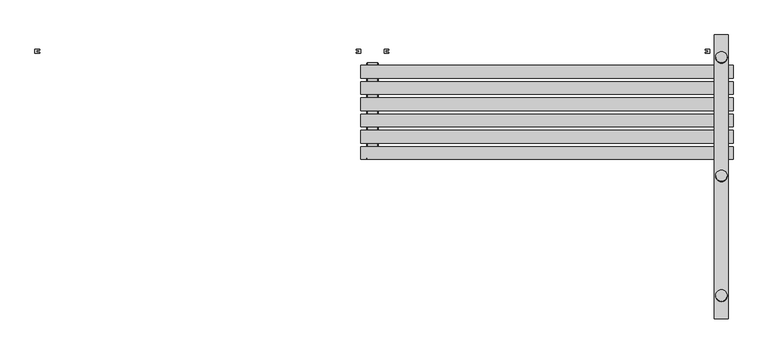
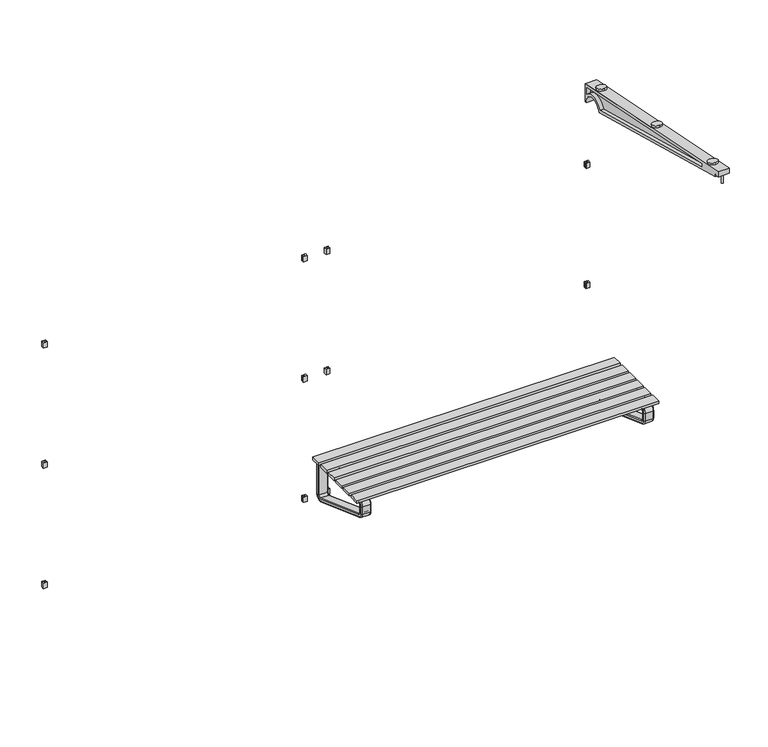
"""IFC4 building model written with IfcOpenShell, lengths in millimetres: geographic element geometry, Abri voyageur : Abri voyageur."""

from ifc_helpers import new_model, si_unit, point, frame, frame_2d, origin, place, context, project, spatial, polyline, circle_curve, ellipse_curve, trimmed, segment, composite_curve, outline, extrude, source, transform, mapped, element, save
from ifc_brep_helpers import plane_surface, cylinder_surface, revolved_surface, advanced_brep


def geographic_element_f93784e4(model_context):
    return source(origin(), model_context, "Body", "SolidModel", [
        extrude(outline(polyline([(1550.0, 490.0), (1550.0, 435.0), (-50.0, 435.0), (-50.0, 490.0), (1550.0, 490.0)])), frame((0.0, 0.0, 500.0), z_axis=(0.0, 0.0, 1.0), x_axis=(1.0, 0.0, 0.0)), (0.0, 0.0, 1.0), 15.0),
        extrude(outline(polyline([(1550.0, 420.0), (1550.0, 365.0), (-50.0, 365.0), (-50.0, 420.0), (1550.0, 420.0)])), frame((0.0, 0.0, 500.0), z_axis=(0.0, 0.0, 1.0), x_axis=(1.0, 0.0, 0.0)), (0.0, 0.0, 1.0), 15.0),
        extrude(outline(polyline([(1550.0, 350.0), (1550.0, 295.0), (-50.0, 295.0), (-50.0, 350.0), (1550.0, 350.0)])), frame((0.0, 0.0, 500.0), z_axis=(0.0, 0.0, 1.0), x_axis=(1.0, 0.0, 0.0)), (0.0, 0.0, 1.0), 15.0),
        extrude(outline(polyline([(1550.0, 280.0), (1550.0, 225.0), (-50.0, 225.0), (-50.0, 280.0), (1550.0, 280.0)])), frame((0.0, 0.0, 500.0), z_axis=(0.0, 0.0, 1.0), x_axis=(1.0, 0.0, 0.0)), (0.0, 0.0, 1.0), 15.0),
        extrude(outline(polyline([(1550.0, 210.0), (1550.0, 155.0), (-50.0, 155.0), (-50.0, 210.0), (1550.0, 210.0)])), frame((0.0, 0.0, 500.0), z_axis=(0.0, 0.0, 1.0), x_axis=(1.0, 0.0, 0.0)), (0.0, 0.0, 1.0), 15.0),
        extrude(outline(polyline([(1550.0, 140.0), (1550.0, 85.0), (-50.0, 85.0), (-50.0, 140.0), (1550.0, 140.0)])), frame((0.0, 0.0, 500.0), z_axis=(0.0, 0.0, 1.0), x_axis=(1.0, 0.0, 0.0)), (0.0, 0.0, 1.0), 15.0),
        advanced_brep(
        [(-21.0, 105.0, 470.0), (-21.0, 115.0, 480.0), (21.0, 115.0, 480.0), (21.0, 105.0, 470.0), (-25.0, 101.0, 470.0), (-25.0, 115.0, 484.0), (-21.0, 85.0, 470.0), (-21.0, 115.0, 500.0), (-25.0, 115.0, 496.0), (-25.0, 89.0, 470.0), (21.0, 85.0, 470.0), (21.0, 115.0, 500.0), (25.0, 89.0, 470.0), (25.0, 115.0, 496.0), (25.0, 115.0, 484.0), (25.0, 101.0, 470.0), (21.0, 105.0, 428.2489051), (-21.0, 105.0, 428.2489051), (-25.0, 101.0, 428.2489051), (-25.0, 89.0, 428.2489051), (-21.0, 85.0, 428.2489051), (21.0, 85.0, 428.2489051), (25.0, 89.0, 428.2489051), (25.0, 101.0, 428.2489051), (-21.0, 111.5797986, 418.8519789), (21.0, 111.5797986, 418.8519789), (-25.0, 110.211718, 415.0932084), (-21.0, 104.7393957, 400.0581264), (-25.0, 106.1074763, 403.8168969), (21.0, 104.7393957, 400.0581264), (25.0, 106.1074763, 403.8168969), (25.0, 110.211718, 415.0932084), (21.0, 466.5797986, 289.6425457), (-21.0, 466.5797986, 289.6425457), (-25.0, 465.211718, 285.8837752), (-25.0, 461.1074763, 274.6074638), (-21.0, 459.7393957, 270.8486933), (21.0, 459.7393957, 270.8486933), (25.0, 461.1074763, 274.6074638), (25.0, 465.211718, 285.8837752), (-21.0, 480.0, 299.0394719), (21.0, 480.0, 299.0394719), (-25.0, 484.0, 299.0394719), (-21.0, 500.0, 299.0394719), (-25.0, 496.0, 299.0394719), (21.0, 500.0, 299.0394719), (25.0, 496.0, 299.0394719), (25.0, 484.0, 299.0394719), (21.0, 480.0, 480.0), (-21.0, 480.0, 480.0), (-25.0, 484.0, 484.0), (-25.0, 496.0, 496.0), (-21.0, 500.0, 500.0), (21.0, 500.0, 500.0), (25.0, 496.0, 496.0), (25.0, 484.0, 484.0)],
        [
            (0, 1, circle_curve(frame((-21.0, 115.0, 470.0), z_axis=(-1.0, 0.0, 0.0), x_axis=(0.0, 0.0, 1.0)), 10.0)),
            (1, 2),
            (2, 3, circle_curve(frame((21.0, 115.0, 470.0), z_axis=(1.0, 0.0, 0.0), x_axis=(0.0, 0.0, 1.0)), 10.0)),
            (3, 0),
            (4, 5, circle_curve(frame((-25.0, 115.0, 470.0), z_axis=(-1.0, 0.0, 0.0), x_axis=(0.0, 0.0, 1.0)), 14.0)),
            (5, 1, circle_curve(frame((-21.0, 115.0, 484.0), z_axis=(0.0, -1.0, 0.0), x_axis=(0.0, 0.0, -1.0)), 4.0)),
            (0, 4, circle_curve(frame((-21.0, 101.0, 470.0), z_axis=(0.0, 0.0, 1.0), x_axis=(0.0, 1.0, 0.0)), 4.0)),
            (6, 7, circle_curve(frame((-21.0, 115.0, 470.0), z_axis=(-1.0, 0.0, 0.0), x_axis=(0.0, 0.0, 1.0)), 30.0)),
            (7, 8, circle_curve(frame((-21.0, 115.0, 496.0), z_axis=(0.0, -1.0, 0.0), x_axis=(0.0, 0.0, -1.0)), 4.0)),
            (8, 9, circle_curve(frame((-25.0, 115.0, 470.0), z_axis=(1.0, 0.0, 0.0), x_axis=(0.0, 0.0, 1.0)), 26.0)),
            (9, 6, circle_curve(frame((-21.0, 89.0, 470.0), z_axis=(0.0, 0.0, 1.0), x_axis=(0.0, 1.0, 0.0)), 4.0)),
            (10, 11, circle_curve(frame((21.0, 115.0, 470.0), z_axis=(-1.0, 0.0, 0.0), x_axis=(0.0, 0.0, 1.0)), 30.0)),
            (11, 7),
            (6, 10),
            (12, 13, circle_curve(frame((25.0, 115.0, 470.0), z_axis=(-1.0, 0.0, 0.0), x_axis=(0.0, 0.0, 1.0)), 26.0)),
            (13, 11, circle_curve(frame((21.0, 115.0, 496.0), z_axis=(0.0, -1.0, 0.0), x_axis=(0.0, 0.0, -1.0)), 4.0)),
            (10, 12, circle_curve(frame((21.0, 89.0, 470.0), z_axis=(0.0, 0.0, 1.0), x_axis=(0.0, 1.0, 0.0)), 4.0)),
            (2, 14, circle_curve(frame((21.0, 115.0, 484.0), z_axis=(0.0, -1.0, 0.0), x_axis=(0.0, 0.0, -1.0)), 4.0)),
            (14, 15, circle_curve(frame((25.0, 115.0, 470.0), z_axis=(1.0, 0.0, 0.0), x_axis=(0.0, 0.0, 1.0)), 14.0)),
            (15, 3, circle_curve(frame((21.0, 101.0, 470.0), z_axis=(0.0, 0.0, 1.0), x_axis=(0.0, 1.0, 0.0)), 4.0)),
            (3, 16),
            (16, 17),
            (17, 0),
            (17, 18, circle_curve(frame((-21.0, 101.0, 428.2489051), z_axis=(0.0, 0.0, 1.0), x_axis=(0.0, 1.0, 0.0)), 4.0)),
            (18, 4),
            (9, 19),
            (19, 20, circle_curve(frame((-21.0, 89.0, 428.2489051), z_axis=(0.0, 0.0, 1.0), x_axis=(0.0, 1.0, 0.0)), 4.0)),
            (20, 6),
            (20, 21),
            (21, 10),
            (21, 22, circle_curve(frame((21.0, 89.0, 428.2489051), z_axis=(0.0, 0.0, 1.0), x_axis=(0.0, 1.0, 0.0)), 4.0)),
            (22, 12),
            (15, 23),
            (23, 16, circle_curve(frame((21.0, 101.0, 428.2489051), z_axis=(0.0, 0.0, 1.0), x_axis=(0.0, 1.0, 0.0)), 4.0)),
            (24, 17, circle_curve(frame((-21.0, 115.0, 428.2489051), z_axis=(-1.0, 0.0, 0.0), x_axis=(0.0, -1.0, 0.0)), 10.0)),
            (16, 25, circle_curve(frame((21.0, 115.0, 428.2489051), z_axis=(1.0, 0.0, 0.0), x_axis=(0.0, -1.0, 0.0)), 10.0)),
            (25, 24),
            (26, 18, circle_curve(frame((-25.0, 115.0, 428.2489051), z_axis=(-1.0, 0.0, 0.0), x_axis=(0.0, -1.0, 0.0)), 14.0)),
            (24, 26, circle_curve(frame((-21.0, 110.211718, 415.0932084), z_axis=(0.0, -0.9396926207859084, 0.3420201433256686), x_axis=(0.0, 0.3420201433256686, 0.9396926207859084)), 4.0)),
            (27, 20, circle_curve(frame((-21.0, 115.0, 428.2489051), z_axis=(-1.0, 0.0, 0.0), x_axis=(0.0, -1.0, 0.0)), 30.0)),
            (19, 28, circle_curve(frame((-25.0, 115.0, 428.2489051), z_axis=(1.0, 0.0, 0.0), x_axis=(0.0, -1.0, 0.0)), 26.0)),
            (28, 27, circle_curve(frame((-21.0, 106.1074763, 403.8168969), z_axis=(0.0, -0.9396926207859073, 0.34202014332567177), x_axis=(0.0, 0.34202014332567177, 0.9396926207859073)), 4.0)),
            (29, 21, circle_curve(frame((21.0, 115.0, 428.2489051), z_axis=(-1.0, 0.0, 0.0), x_axis=(0.0, -1.0, 0.0)), 30.0)),
            (27, 29),
            (30, 22, circle_curve(frame((25.0, 115.0, 428.2489051), z_axis=(-1.0, 0.0, 0.0), x_axis=(0.0, -1.0, 0.0)), 26.0)),
            (29, 30, circle_curve(frame((21.0, 106.1074763, 403.8168969), z_axis=(0.0, -0.9396926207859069, 0.342020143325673), x_axis=(0.0, 0.342020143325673, 0.9396926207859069)), 4.0)),
            (23, 31, circle_curve(frame((25.0, 115.0, 428.2489051), z_axis=(1.0, 0.0, 0.0), x_axis=(0.0, -1.0, 0.0)), 14.0)),
            (31, 25, circle_curve(frame((21.0, 110.211718, 415.0932084), z_axis=(0.0, -0.939692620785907, 0.3420201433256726), x_axis=(0.0, 0.3420201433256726, 0.939692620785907)), 4.0)),
            (25, 32),
            (32, 33),
            (33, 24),
            (33, 34, circle_curve(frame((-21.0, 465.211718, 285.8837752), z_axis=(0.0, -0.9396926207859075, 0.3420201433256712), x_axis=(0.0, 0.3420201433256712, 0.9396926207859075)), 4.0)),
            (34, 26),
            (28, 35),
            (35, 36, circle_curve(frame((-21.0, 461.1074763, 274.6074638), z_axis=(0.0, -0.9396926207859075, 0.3420201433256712), x_axis=(0.0, 0.3420201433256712, 0.9396926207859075)), 4.0)),
            (36, 27),
            (36, 37),
            (37, 29),
            (37, 38, circle_curve(frame((21.0, 461.1074763, 274.6074638), z_axis=(0.0, -0.9396926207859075, 0.3420201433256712), x_axis=(0.0, 0.3420201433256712, 0.9396926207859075)), 4.0)),
            (38, 30),
            (31, 39),
            (39, 32, circle_curve(frame((21.0, 465.211718, 285.8837752), z_axis=(0.0, -0.9396926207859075, 0.3420201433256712), x_axis=(0.0, 0.3420201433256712, 0.9396926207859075)), 4.0)),
            (40, 33, circle_curve(frame((-21.0, 470.0, 299.0394719), z_axis=(-1.0, 0.0, 0.0), x_axis=(0.0, -0.34202014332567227, -0.9396926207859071)), 10.0)),
            (32, 41, circle_curve(frame((21.0, 470.0, 299.0394719), z_axis=(1.0, 0.0, 0.0), x_axis=(0.0, -0.34202014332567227, -0.9396926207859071)), 10.0)),
            (41, 40),
            (42, 34, circle_curve(frame((-25.0, 470.0, 299.0394719), z_axis=(-1.0, 0.0, 0.0), x_axis=(0.0, -0.34202014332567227, -0.9396926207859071)), 14.0)),
            (40, 42, circle_curve(frame((-21.0, 484.0, 299.0394719), z_axis=(0.0, 0.0, -1.0), x_axis=(0.0, -1.0, 0.0)), 4.0)),
            (43, 36, circle_curve(frame((-21.0, 470.0, 299.0394719), z_axis=(-1.0, 0.0, 0.0), x_axis=(0.0, -0.34202014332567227, -0.9396926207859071)), 30.0)),
            (35, 44, circle_curve(frame((-25.0, 470.0, 299.0394719), z_axis=(1.0, 0.0, 0.0), x_axis=(0.0, -0.34202014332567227, -0.9396926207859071)), 26.0)),
            (44, 43, circle_curve(frame((-21.0, 496.0, 299.0394719), z_axis=(0.0, 0.0, -1.0), x_axis=(0.0, -1.0, 0.0)), 4.0)),
            (45, 37, circle_curve(frame((21.0, 470.0, 299.0394719), z_axis=(-1.0, 0.0, 0.0), x_axis=(0.0, -0.34202014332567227, -0.9396926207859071)), 30.0)),
            (43, 45),
            (46, 38, circle_curve(frame((25.0, 470.0, 299.0394719), z_axis=(-1.0, 0.0, 0.0), x_axis=(0.0, -0.34202014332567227, -0.9396926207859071)), 26.0)),
            (45, 46, circle_curve(frame((21.0, 496.0, 299.0394719), z_axis=(0.0, 0.0, -1.0), x_axis=(0.0, -1.0, 0.0)), 4.0)),
            (39, 47, circle_curve(frame((25.0, 470.0, 299.0394719), z_axis=(1.0, 0.0, 0.0), x_axis=(0.0, -0.34202014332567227, -0.9396926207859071)), 14.0)),
            (47, 41, circle_curve(frame((21.0, 484.0, 299.0394719), z_axis=(0.0, 0.0, -0.9999999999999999), x_axis=(0.0, -0.9999999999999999, 0.0)), 4.0)),
            (41, 48),
            (48, 49),
            (49, 40),
            (49, 50, ellipse_curve(frame((-21.0, 484.0, 484.0), z_axis=(0.0, 0.7071067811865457, -0.7071067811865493), x_axis=(0.0, -0.7071067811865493, -0.7071067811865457)), 5.6568542, 4.0)),
            (50, 42),
            (44, 51),
            (51, 52, ellipse_curve(frame((-21.0, 496.0, 496.0), z_axis=(0.0, 0.7071067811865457, -0.7071067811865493), x_axis=(0.0, -0.7071067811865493, -0.7071067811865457)), 5.6568542, 4.0)),
            (52, 43),
            (52, 53),
            (53, 45),
            (53, 54, ellipse_curve(frame((21.0, 496.0, 496.0), z_axis=(0.0, 0.7071067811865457, -0.7071067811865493), x_axis=(0.0, -0.7071067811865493, -0.7071067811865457)), 5.6568542, 4.0)),
            (54, 46),
            (47, 55),
            (55, 48, ellipse_curve(frame((21.0, 484.0, 484.0), z_axis=(0.0, 0.7071067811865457, -0.7071067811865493), x_axis=(0.0, -0.7071067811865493, -0.7071067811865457)), 5.6568542, 4.0)),
            (48, 2),
            (1, 49),
            (5, 50),
            (8, 51),
            (7, 52),
            (11, 53),
            (13, 54),
            (14, 55),
        ],
        [
            revolved_surface(polyline([(21.0, 115.0, 480.0), (-21.0, 115.0, 480.0)]), (0.0, 115.0, 470.0), (1.0, 0.0, 0.0)),
            revolved_surface(trimmed(ellipse_curve(frame((-21.0, 115.0, 484.0), z_axis=(0.0, 1.0, 0.0), x_axis=(0.0, 0.0, -1.0)), 4.0, 4.0), [point((-21.0, 115.0, 480.0))], [point((-25.0, 115.0, 484.0))], True, "CARTESIAN"), (0.0, 115.0, 470.0), (1.0, 0.0, 0.0)),
            revolved_surface(trimmed(ellipse_curve(frame((-21.0, 115.0, 496.0), z_axis=(0.0, 1.0, 0.0), x_axis=(0.0, 0.0, -1.0)), 4.0, 4.0), [point((-25.0, 115.0, 496.0))], [point((-21.0, 115.0, 500.0))], True, "CARTESIAN"), (0.0, 115.0, 470.0), (1.0, 0.0, 0.0)),
            cylinder_surface(frame((0.0, 115.0, 470.0), z_axis=(1.0, 0.0, 0.0), x_axis=(0.0, 0.0, 1.0)), 30.0),
            revolved_surface(trimmed(ellipse_curve(frame((21.0, 115.0, 496.0), z_axis=(0.0, 1.0, 0.0), x_axis=(0.0, 0.0, -1.0)), 4.0, 4.0), [point((21.0, 115.0, 500.0))], [point((25.0, 115.0, 496.0))], True, "CARTESIAN"), (0.0, 115.0, 470.0), (1.0, 0.0, 0.0)),
            revolved_surface(trimmed(ellipse_curve(frame((21.0, 115.0, 484.0), z_axis=(0.0, 1.0, 0.0), x_axis=(0.0, 0.0, -1.0)), 4.0, 4.0), [point((25.0, 115.0, 484.0))], [point((21.0, 115.0, 480.0))], True, "CARTESIAN"), (0.0, 115.0, 470.0), (1.0, 0.0, 0.0)),
            plane_surface(frame((21.0, 105.0, 470.0), z_axis=(0.0, 1.0, 0.0), x_axis=(0.0, 0.0, -1.0))),
            cylinder_surface(frame((-21.0, 101.0, 470.0), z_axis=(0.0, 0.0, 1.0), x_axis=(0.0, 1.0, 0.0)), 4.0),
            cylinder_surface(frame((-21.0, 89.0, 470.0), z_axis=(0.0, 0.0, 1.0), x_axis=(0.0, 1.0, 0.0)), 4.0),
            plane_surface(frame((-21.0, 85.0, 470.0), z_axis=(0.0, -1.0, 0.0), x_axis=(0.0, 0.0, -1.0))),
            cylinder_surface(frame((21.0, 89.0, 470.0), z_axis=(0.0, 0.0, 1.0), x_axis=(0.0, 1.0, 0.0)), 4.0),
            cylinder_surface(frame((21.0, 101.0, 470.0), z_axis=(0.0, 0.0, 1.0), x_axis=(0.0, 1.0, 0.0)), 4.0),
            revolved_surface(polyline([(21.0, 105.0, 428.2489051), (-21.0, 105.0, 428.2489051)]), (0.0, 115.0, 428.2489051), (1.0, 0.0, 0.0)),
            revolved_surface(trimmed(ellipse_curve(frame((-21.0, 101.0, 428.2489051), z_axis=(0.0, 0.0, 1.0), x_axis=(0.0, 1.0, 0.0)), 4.0, 4.0), [point((-21.0, 105.0, 428.2489051))], [point((-25.0, 101.0, 428.2489051))], True, "CARTESIAN"), (0.0, 115.0, 428.2489051), (1.0, 0.0, 0.0)),
            revolved_surface(trimmed(ellipse_curve(frame((-21.0, 89.0, 428.2489051), z_axis=(0.0, 0.0, 1.0), x_axis=(0.0, 1.0, 0.0)), 4.0, 4.0), [point((-25.0, 89.0, 428.2489051))], [point((-21.0, 85.0, 428.2489051))], True, "CARTESIAN"), (0.0, 115.0, 428.2489051), (1.0, 0.0, 0.0)),
            cylinder_surface(frame((0.0, 115.0, 428.2489051), z_axis=(1.0, 0.0, 0.0), x_axis=(0.0, -1.0, 0.0)), 30.0),
            revolved_surface(trimmed(ellipse_curve(frame((21.0, 89.0, 428.2489051), z_axis=(0.0, 0.0, 1.0), x_axis=(0.0, 1.0, 0.0)), 4.0, 4.0), [point((21.0, 85.0, 428.2489051))], [point((25.0, 89.0, 428.2489051))], True, "CARTESIAN"), (0.0, 115.0, 428.2489051), (1.0, 0.0, 0.0)),
            revolved_surface(trimmed(ellipse_curve(frame((21.0, 101.0, 428.2489051), z_axis=(0.0, 0.0, 1.0), x_axis=(0.0, 1.0, 0.0)), 4.0, 4.0), [point((25.0, 101.0, 428.2489051))], [point((21.0, 105.0, 428.2489051))], True, "CARTESIAN"), (0.0, 115.0, 428.2489051), (1.0, 0.0, 0.0)),
            plane_surface(frame((21.0, 111.5797986, 418.8519789), z_axis=(0.0, 0.3420201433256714, 0.9396926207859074), x_axis=(0.0, 0.9396926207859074, -0.3420201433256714))),
            cylinder_surface(frame((-21.0, 110.211718, 415.0932084), z_axis=(0.0, -0.9396926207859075, 0.3420201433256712), x_axis=(0.0, 0.3420201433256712, 0.9396926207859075)), 4.0),
            cylinder_surface(frame((-21.0, 106.1074763, 403.8168969), z_axis=(0.0, -0.9396926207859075, 0.3420201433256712), x_axis=(0.0, 0.3420201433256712, 0.9396926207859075)), 4.0),
            plane_surface(frame((-21.0, 104.7393957, 400.0581264), z_axis=(0.0, -0.3420201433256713, -0.9396926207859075), x_axis=(0.0, 0.9396926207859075, -0.3420201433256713))),
            cylinder_surface(frame((21.0, 106.1074763, 403.8168969), z_axis=(0.0, -0.9396926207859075, 0.3420201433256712), x_axis=(0.0, 0.3420201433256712, 0.9396926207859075)), 4.0),
            cylinder_surface(frame((21.0, 110.211718, 415.0932084), z_axis=(0.0, -0.9396926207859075, 0.3420201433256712), x_axis=(0.0, 0.3420201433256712, 0.9396926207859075)), 4.0),
            revolved_surface(polyline([(21.0, 466.57979856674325, 289.64254569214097), (-21.0, 466.57979856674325, 289.64254569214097)]), (0.0, 470.0, 299.0394719), (1.0, 0.0, 0.0)),
            revolved_surface(trimmed(ellipse_curve(frame((-21.0, 465.211718, 285.8837752), z_axis=(0.0, -0.9396926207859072, 0.3420201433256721), x_axis=(0.0, 0.3420201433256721, 0.9396926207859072)), 4.0, 4.0), [point((-21.0, 466.5797986, 289.6425457))], [point((-25.0, 465.211718, 285.8837752))], True, "CARTESIAN"), (0.0, 470.0, 299.0394719), (1.0, 0.0, 0.0)),
            revolved_surface(trimmed(ellipse_curve(frame((-21.0, 461.1074763, 274.6074638), z_axis=(0.0, -0.9396926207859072, 0.3420201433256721), x_axis=(0.0, 0.3420201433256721, 0.9396926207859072)), 4.0, 4.0), [point((-25.0, 461.1074763, 274.6074638))], [point((-21.0, 459.7393957, 270.8486933))], True, "CARTESIAN"), (0.0, 470.0, 299.0394719), (1.0, 0.0, 0.0)),
            cylinder_surface(frame((0.0, 470.0, 299.0394719), z_axis=(1.0, 0.0, 0.0), x_axis=(0.0, -0.34202014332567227, -0.9396926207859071)), 30.0),
            revolved_surface(trimmed(ellipse_curve(frame((21.0, 461.1074763, 274.6074638), z_axis=(0.0, -0.9396926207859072, 0.3420201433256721), x_axis=(0.0, 0.3420201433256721, 0.9396926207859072)), 4.0, 4.0), [point((21.0, 459.7393957, 270.8486933))], [point((25.0, 461.1074763, 274.6074638))], True, "CARTESIAN"), (0.0, 470.0, 299.0394719), (1.0, 0.0, 0.0)),
            revolved_surface(trimmed(ellipse_curve(frame((21.0, 465.211718, 285.8837752), z_axis=(0.0, -0.9396926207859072, 0.3420201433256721), x_axis=(0.0, 0.3420201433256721, 0.9396926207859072)), 4.0, 4.0), [point((25.0, 465.211718, 285.8837752))], [point((21.0, 466.5797986, 289.6425457))], True, "CARTESIAN"), (0.0, 470.0, 299.0394719), (1.0, 0.0, 0.0)),
            plane_surface(frame((21.0, 480.0, 299.0394719), z_axis=(0.0, -1.0, 0.0), x_axis=(0.0, 0.0, 1.0))),
            cylinder_surface(frame((-21.0, 484.0, 299.0394719), z_axis=(0.0, 0.0, -1.0), x_axis=(0.0, -1.0, 0.0)), 4.0),
            cylinder_surface(frame((-21.0, 496.0, 299.0394719), z_axis=(0.0, 0.0, -1.0), x_axis=(0.0, -1.0, 0.0)), 4.0),
            plane_surface(frame((-21.0, 500.0, 299.0394719), z_axis=(0.0, 1.0, 0.0), x_axis=(0.0, 0.0, 1.0))),
            cylinder_surface(frame((21.0, 496.0, 299.0394719), z_axis=(0.0, 0.0, -1.0), x_axis=(0.0, -1.0, 0.0)), 4.0),
            cylinder_surface(frame((21.0, 484.0, 299.0394719), z_axis=(0.0, 0.0, -1.0), x_axis=(0.0, -1.0, 0.0)), 4.0),
            plane_surface(frame((21.0, 480.0, 480.0), z_axis=(0.0, 0.0, -1.0), x_axis=(0.0, -1.0, 0.0))),
            cylinder_surface(frame((-21.0, 500.0, 484.0), z_axis=(0.0, 1.0, 0.0), x_axis=(0.0, 0.0, -1.0)), 4.0),
            plane_surface(frame((-25.0, 484.0, 484.0), z_axis=(-1.0, 0.0, 0.0), x_axis=(0.0, -1.0, 0.0))),
            cylinder_surface(frame((-21.0, 500.0, 496.0), z_axis=(0.0, 1.0, 0.0), x_axis=(0.0, 0.0, -1.0)), 4.0),
            plane_surface(frame((-21.0, 500.0, 500.0), z_axis=(0.0, 0.0, 1.0), x_axis=(0.0, -1.0, 0.0))),
            cylinder_surface(frame((21.0, 500.0, 496.0), z_axis=(0.0, 1.0, 0.0), x_axis=(0.0, 0.0, -1.0)), 4.0),
            plane_surface(frame((25.0, 496.0, 496.0), z_axis=(1.0, 0.0, 0.0), x_axis=(0.0, -1.0, 0.0))),
            cylinder_surface(frame((21.0, 500.0, 484.0), z_axis=(0.0, 1.0, 0.0), x_axis=(0.0, 0.0, -1.0)), 4.0),
        ],
        [
            (0, [[1, 2, 3, 4]]),
            (1, [[5, 6, -1, 7]]),
            (2, [[8, 9, 10, 11]]),
            (3, [[12, 13, -8, 14]]),
            (4, [[15, 16, -12, 17]]),
            (5, [[-3, 18, 19, 20]]),
            (6, [[-4, 21, 22, 23]]),
            (7, [[-7, -23, 24, 25]]),
            (8, [[-11, 26, 27, 28]]),
            (9, [[-14, -28, 29, 30]]),
            (10, [[-17, -30, 31, 32]]),
            (11, [[-20, 33, 34, -21]]),
            (12, [[35, -22, 36, 37]]),
            (13, [[38, -24, -35, 39]]),
            (14, [[40, -27, 41, 42]]),
            (15, [[43, -29, -40, 44]]),
            (16, [[45, -31, -43, 46]]),
            (17, [[-36, -34, 47, 48]]),
            (18, [[-37, 49, 50, 51]]),
            (19, [[-39, -51, 52, 53]]),
            (20, [[-42, 54, 55, 56]]),
            (21, [[-44, -56, 57, 58]]),
            (22, [[-46, -58, 59, 60]]),
            (23, [[-48, 61, 62, -49]]),
            (24, [[63, -50, 64, 65]]),
            (25, [[66, -52, -63, 67]]),
            (26, [[68, -55, 69, 70]]),
            (27, [[71, -57, -68, 72]]),
            (28, [[73, -59, -71, 74]]),
            (29, [[-64, -62, 75, 76]]),
            (30, [[-65, 77, 78, 79]]),
            (31, [[-67, -79, 80, 81]]),
            (32, [[-70, 82, 83, 84]]),
            (33, [[-72, -84, 85, 86]]),
            (34, [[-74, -86, 87, 88]]),
            (35, [[-76, 89, 90, -77]]),
            (36, [[-78, 91, -2, 92]]),
            (37, [[-80, -92, -6, 93]]),
            (38, [[94, -82, -69, -54, -41, -26, -10], [-66, -81, -93, -5, -25, -38, -53]]),
            (39, [[-83, -94, -9, 95]]),
            (40, [[-85, -95, -13, 96]]),
            (41, [[-87, -96, -16, 97]]),
            (42, [[-73, -88, -97, -15, -32, -45, -60], [98, -89, -75, -61, -47, -33, -19]]),
            (43, [[-90, -98, -18, -91]]),
        ],
    ),
        advanced_brep(
        [(1479.0, 105.0, 470.0), (1479.0, 115.0, 480.0), (1521.0, 115.0, 480.0), (1521.0, 105.0, 470.0), (1475.0, 101.0, 470.0), (1475.0, 115.0, 484.0), (1479.0, 85.0, 470.0), (1479.0, 115.0, 500.0), (1475.0, 115.0, 496.0), (1475.0, 89.0, 470.0), (1521.0, 85.0, 470.0), (1521.0, 115.0, 500.0), (1525.0, 89.0, 470.0), (1525.0, 115.0, 496.0), (1525.0, 115.0, 484.0), (1525.0, 101.0, 470.0), (1521.0, 105.0, 428.2489051), (1479.0, 105.0, 428.2489051), (1475.0, 101.0, 428.2489051), (1475.0, 89.0, 428.2489051), (1479.0, 85.0, 428.2489051), (1521.0, 85.0, 428.2489051), (1525.0, 89.0, 428.2489051), (1525.0, 101.0, 428.2489051), (1479.0, 111.5797986, 418.8519789), (1521.0, 111.5797986, 418.8519789), (1475.0, 110.211718, 415.0932084), (1479.0, 104.7393957, 400.0581264), (1475.0, 106.1074763, 403.8168969), (1521.0, 104.7393957, 400.0581264), (1525.0, 106.1074763, 403.8168969), (1525.0, 110.211718, 415.0932084), (1521.0, 466.5797986, 289.6425457), (1479.0, 466.5797986, 289.6425457), (1475.0, 465.211718, 285.8837752), (1475.0, 461.1074763, 274.6074638), (1479.0, 459.7393957, 270.8486933), (1521.0, 459.7393957, 270.8486933), (1525.0, 461.1074763, 274.6074638), (1525.0, 465.211718, 285.8837752), (1479.0, 480.0, 299.0394719), (1521.0, 480.0, 299.0394719), (1475.0, 484.0, 299.0394719), (1479.0, 500.0, 299.0394719), (1475.0, 496.0, 299.0394719), (1521.0, 500.0, 299.0394719), (1525.0, 496.0, 299.0394719), (1525.0, 484.0, 299.0394719), (1521.0, 480.0, 480.0), (1479.0, 480.0, 480.0), (1475.0, 484.0, 484.0), (1475.0, 496.0, 496.0), (1479.0, 500.0, 500.0), (1521.0, 500.0, 500.0), (1525.0, 496.0, 496.0), (1525.0, 484.0, 484.0)],
        [
            (0, 1, circle_curve(frame((1479.0, 115.0, 470.0), z_axis=(-1.0, 0.0, 0.0), x_axis=(0.0, 0.0, 1.0)), 10.0)),
            (1, 2),
            (2, 3, circle_curve(frame((1521.0, 115.0, 470.0), z_axis=(1.0, 0.0, 0.0), x_axis=(0.0, 0.0, 1.0)), 10.0)),
            (3, 0),
            (4, 5, circle_curve(frame((1475.0, 115.0, 470.0), z_axis=(-1.0, 0.0, 0.0), x_axis=(0.0, 0.0, 1.0)), 14.0)),
            (5, 1, circle_curve(frame((1479.0, 115.0, 484.0), z_axis=(0.0, -1.0, 0.0), x_axis=(0.0, 0.0, -1.0)), 4.0)),
            (0, 4, circle_curve(frame((1479.0, 101.0, 470.0), z_axis=(0.0, 0.0, 1.0), x_axis=(0.0, 1.0, 0.0)), 4.0)),
            (6, 7, circle_curve(frame((1479.0, 115.0, 470.0), z_axis=(-1.0, 0.0, 0.0), x_axis=(0.0, 0.0, 1.0)), 30.0)),
            (7, 8, circle_curve(frame((1479.0, 115.0, 496.0), z_axis=(0.0, -1.0, 0.0), x_axis=(0.0, 0.0, -1.0)), 4.0)),
            (8, 9, circle_curve(frame((1475.0, 115.0, 470.0), z_axis=(1.0, 0.0, 0.0), x_axis=(0.0, 0.0, 1.0)), 26.0)),
            (9, 6, circle_curve(frame((1479.0, 89.0, 470.0), z_axis=(0.0, 0.0, 1.0), x_axis=(0.0, 1.0, 0.0)), 4.0)),
            (10, 11, circle_curve(frame((1521.0, 115.0, 470.0), z_axis=(-1.0, 0.0, 0.0), x_axis=(0.0, 0.0, 1.0)), 30.0)),
            (11, 7),
            (6, 10),
            (12, 13, circle_curve(frame((1525.0, 115.0, 470.0), z_axis=(-1.0, 0.0, 0.0), x_axis=(0.0, 0.0, 1.0)), 26.0)),
            (13, 11, circle_curve(frame((1521.0, 115.0, 496.0), z_axis=(0.0, -1.0, 0.0), x_axis=(0.0, 0.0, -1.0)), 4.0)),
            (10, 12, circle_curve(frame((1521.0, 89.0, 470.0), z_axis=(0.0, 0.0, 1.0), x_axis=(0.0, 1.0, 0.0)), 4.0)),
            (2, 14, circle_curve(frame((1521.0, 115.0, 484.0), z_axis=(0.0, -1.0, 0.0), x_axis=(0.0, 0.0, -1.0)), 4.0)),
            (14, 15, circle_curve(frame((1525.0, 115.0, 470.0), z_axis=(1.0, 0.0, 0.0), x_axis=(0.0, 0.0, 1.0)), 14.0)),
            (15, 3, circle_curve(frame((1521.0, 101.0, 470.0), z_axis=(0.0, 0.0, 1.0), x_axis=(0.0, 1.0, 0.0)), 4.0)),
            (3, 16),
            (16, 17),
            (17, 0),
            (17, 18, circle_curve(frame((1479.0, 101.0, 428.2489051), z_axis=(0.0, 0.0, 1.0), x_axis=(0.0, 1.0, 0.0)), 4.0)),
            (18, 4),
            (9, 19),
            (19, 20, circle_curve(frame((1479.0, 89.0, 428.2489051), z_axis=(0.0, 0.0, 1.0), x_axis=(0.0, 1.0, 0.0)), 4.0)),
            (20, 6),
            (20, 21),
            (21, 10),
            (21, 22, circle_curve(frame((1521.0, 89.0, 428.2489051), z_axis=(0.0, 0.0, 1.0), x_axis=(0.0, 1.0, 0.0)), 4.0)),
            (22, 12),
            (15, 23),
            (23, 16, circle_curve(frame((1521.0, 101.0, 428.2489051), z_axis=(0.0, 0.0, 1.0), x_axis=(0.0, 1.0, 0.0)), 4.0)),
            (24, 17, circle_curve(frame((1479.0, 115.0, 428.2489051), z_axis=(-1.0, 0.0, 0.0), x_axis=(0.0, -1.0, 0.0)), 10.0)),
            (16, 25, circle_curve(frame((1521.0, 115.0, 428.2489051), z_axis=(1.0, 0.0, 0.0), x_axis=(0.0, -1.0, 0.0)), 10.0)),
            (25, 24),
            (26, 18, circle_curve(frame((1475.0, 115.0, 428.2489051), z_axis=(-1.0, 0.0, 0.0), x_axis=(0.0, -1.0, 0.0)), 14.0)),
            (24, 26, circle_curve(frame((1479.0, 110.211718, 415.0932084), z_axis=(0.0, -0.9396926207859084, 0.3420201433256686), x_axis=(0.0, 0.3420201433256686, 0.9396926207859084)), 4.0)),
            (27, 20, circle_curve(frame((1479.0, 115.0, 428.2489051), z_axis=(-1.0, 0.0, 0.0), x_axis=(0.0, -1.0, 0.0)), 30.0)),
            (19, 28, circle_curve(frame((1475.0, 115.0, 428.2489051), z_axis=(1.0, 0.0, 0.0), x_axis=(0.0, -1.0, 0.0)), 26.0)),
            (28, 27, circle_curve(frame((1479.0, 106.1074763, 403.8168969), z_axis=(0.0, -0.9396926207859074, 0.34202014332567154), x_axis=(0.0, 0.34202014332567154, 0.9396926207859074)), 4.0)),
            (29, 21, circle_curve(frame((1521.0, 115.0, 428.2489051), z_axis=(-1.0, 0.0, 0.0), x_axis=(0.0, -1.0, 0.0)), 30.0)),
            (27, 29),
            (30, 22, circle_curve(frame((1525.0, 115.0, 428.2489051), z_axis=(-1.0, 0.0, 0.0), x_axis=(0.0, -1.0, 0.0)), 26.0)),
            (29, 30, circle_curve(frame((1521.0, 106.1074763, 403.8168969), z_axis=(0.0, -0.9396926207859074, 0.34202014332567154), x_axis=(0.0, 0.34202014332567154, 0.9396926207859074)), 4.0)),
            (23, 31, circle_curve(frame((1525.0, 115.0, 428.2489051), z_axis=(1.0, 0.0, 0.0), x_axis=(0.0, -1.0, 0.0)), 14.0)),
            (31, 25, circle_curve(frame((1521.0, 110.211718, 415.0932084), z_axis=(0.0, -0.939692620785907, 0.3420201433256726), x_axis=(0.0, 0.3420201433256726, 0.939692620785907)), 4.0)),
            (25, 32),
            (32, 33),
            (33, 24),
            (33, 34, circle_curve(frame((1479.0, 465.211718, 285.8837752), z_axis=(0.0, -0.9396926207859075, 0.3420201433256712), x_axis=(0.0, 0.3420201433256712, 0.9396926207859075)), 4.0)),
            (34, 26),
            (28, 35),
            (35, 36, circle_curve(frame((1479.0, 461.1074763, 274.6074638), z_axis=(0.0, -0.9396926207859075, 0.3420201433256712), x_axis=(0.0, 0.3420201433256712, 0.9396926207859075)), 4.0)),
            (36, 27),
            (36, 37),
            (37, 29),
            (37, 38, circle_curve(frame((1521.0, 461.1074763, 274.6074638), z_axis=(0.0, -0.9396926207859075, 0.3420201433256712), x_axis=(0.0, 0.3420201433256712, 0.9396926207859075)), 4.0)),
            (38, 30),
            (31, 39),
            (39, 32, circle_curve(frame((1521.0, 465.211718, 285.8837752), z_axis=(0.0, -0.9396926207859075, 0.3420201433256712), x_axis=(0.0, 0.3420201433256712, 0.9396926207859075)), 4.0)),
            (40, 33, circle_curve(frame((1479.0, 470.0, 299.0394719), z_axis=(-1.0, 0.0, 0.0), x_axis=(0.0, -0.34202014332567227, -0.9396926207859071)), 10.0)),
            (32, 41, circle_curve(frame((1521.0, 470.0, 299.0394719), z_axis=(1.0, 0.0, 0.0), x_axis=(0.0, -0.34202014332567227, -0.9396926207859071)), 10.0)),
            (41, 40),
            (42, 34, circle_curve(frame((1475.0, 470.0, 299.0394719), z_axis=(-1.0, 0.0, 0.0), x_axis=(0.0, -0.34202014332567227, -0.9396926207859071)), 14.0)),
            (40, 42, circle_curve(frame((1479.0, 484.0, 299.0394719), z_axis=(0.0, 0.0, -1.0), x_axis=(0.0, -1.0, 0.0)), 4.0)),
            (43, 36, circle_curve(frame((1479.0, 470.0, 299.0394719), z_axis=(-1.0, 0.0, 0.0), x_axis=(0.0, -0.34202014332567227, -0.9396926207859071)), 30.0)),
            (35, 44, circle_curve(frame((1475.0, 470.0, 299.0394719), z_axis=(1.0, 0.0, 0.0), x_axis=(0.0, -0.34202014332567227, -0.9396926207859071)), 26.0)),
            (44, 43, circle_curve(frame((1479.0, 496.0, 299.0394719), z_axis=(0.0, 0.0, -0.9999999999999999), x_axis=(0.0, -0.9999999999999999, 0.0)), 4.0)),
            (45, 37, circle_curve(frame((1521.0, 470.0, 299.0394719), z_axis=(-1.0, 0.0, 0.0), x_axis=(0.0, -0.34202014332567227, -0.9396926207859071)), 30.0)),
            (43, 45),
            (46, 38, circle_curve(frame((1525.0, 470.0, 299.0394719), z_axis=(-1.0, 0.0, 0.0), x_axis=(0.0, -0.34202014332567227, -0.9396926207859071)), 26.0)),
            (45, 46, circle_curve(frame((1521.0, 496.0, 299.0394719), z_axis=(0.0, 0.0, -0.9999999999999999), x_axis=(0.0, -0.9999999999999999, 0.0)), 4.0)),
            (39, 47, circle_curve(frame((1525.0, 470.0, 299.0394719), z_axis=(1.0, 0.0, 0.0), x_axis=(0.0, -0.34202014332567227, -0.9396926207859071)), 14.0)),
            (47, 41, circle_curve(frame((1521.0, 484.0, 299.0394719), z_axis=(0.0, 0.0, -1.0), x_axis=(0.0, -1.0, 0.0)), 4.0)),
            (41, 48),
            (48, 49),
            (49, 40),
            (49, 50, ellipse_curve(frame((1479.0, 484.0, 484.0), z_axis=(0.0, 0.7071067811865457, -0.7071067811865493), x_axis=(0.0, -0.7071067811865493, -0.7071067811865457)), 5.6568542, 4.0)),
            (50, 42),
            (44, 51),
            (51, 52, ellipse_curve(frame((1479.0, 496.0, 496.0), z_axis=(0.0, 0.7071067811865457, -0.7071067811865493), x_axis=(0.0, -0.7071067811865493, -0.7071067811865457)), 5.6568542, 4.0)),
            (52, 43),
            (52, 53),
            (53, 45),
            (53, 54, ellipse_curve(frame((1521.0, 496.0, 496.0), z_axis=(0.0, 0.7071067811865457, -0.7071067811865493), x_axis=(0.0, -0.7071067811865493, -0.7071067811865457)), 5.6568542, 4.0)),
            (54, 46),
            (47, 55),
            (55, 48, ellipse_curve(frame((1521.0, 484.0, 484.0), z_axis=(0.0, 0.7071067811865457, -0.7071067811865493), x_axis=(0.0, -0.7071067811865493, -0.7071067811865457)), 5.6568542, 4.0)),
            (48, 2),
            (1, 49),
            (5, 50),
            (8, 51),
            (7, 52),
            (11, 53),
            (13, 54),
            (14, 55),
        ],
        [
            revolved_surface(polyline([(1521.0, 115.0, 480.0), (1479.0, 115.0, 480.0)]), (0.0, 115.0, 470.0), (1.0, 0.0, 0.0)),
            revolved_surface(trimmed(ellipse_curve(frame((1479.0, 115.0, 484.0), z_axis=(0.0, 1.0, 0.0), x_axis=(0.0, 0.0, -1.0)), 4.0, 4.0), [point((1479.0, 115.0, 480.0))], [point((1475.0, 115.0, 484.0))], True, "CARTESIAN"), (0.0, 115.0, 470.0), (1.0, 0.0, 0.0)),
            revolved_surface(trimmed(ellipse_curve(frame((1479.0, 115.0, 496.0), z_axis=(0.0, 1.0, 0.0), x_axis=(0.0, 0.0, -1.0)), 4.0, 4.0), [point((1475.0, 115.0, 496.0))], [point((1479.0, 115.0, 500.0))], True, "CARTESIAN"), (0.0, 115.0, 470.0), (1.0, 0.0, 0.0)),
            cylinder_surface(frame((0.0, 115.0, 470.0), z_axis=(1.0, 0.0, 0.0), x_axis=(0.0, 0.0, 1.0)), 30.0),
            revolved_surface(trimmed(ellipse_curve(frame((1521.0, 115.0, 496.0), z_axis=(0.0, 1.0, 0.0), x_axis=(0.0, 0.0, -1.0)), 4.0, 4.0), [point((1521.0, 115.0, 500.0))], [point((1525.0, 115.0, 496.0))], True, "CARTESIAN"), (0.0, 115.0, 470.0), (1.0, 0.0, 0.0)),
            revolved_surface(trimmed(ellipse_curve(frame((1521.0, 115.0, 484.0), z_axis=(0.0, 1.0, 0.0), x_axis=(0.0, 0.0, -1.0)), 4.0, 4.0), [point((1525.0, 115.0, 484.0))], [point((1521.0, 115.0, 480.0))], True, "CARTESIAN"), (0.0, 115.0, 470.0), (1.0, 0.0, 0.0)),
            plane_surface(frame((1521.0, 105.0, 470.0), z_axis=(0.0, 1.0, 0.0), x_axis=(0.0, 0.0, -1.0))),
            cylinder_surface(frame((1479.0, 101.0, 470.0), z_axis=(0.0, 0.0, 1.0), x_axis=(0.0, 1.0, 0.0)), 4.0),
            cylinder_surface(frame((1479.0, 89.0, 470.0), z_axis=(0.0, 0.0, 1.0), x_axis=(0.0, 1.0, 0.0)), 4.0),
            plane_surface(frame((1479.0, 85.0, 470.0), z_axis=(0.0, -1.0, 0.0), x_axis=(0.0, 0.0, -1.0))),
            cylinder_surface(frame((1521.0, 89.0, 470.0), z_axis=(0.0, 0.0, 1.0), x_axis=(0.0, 1.0, 0.0)), 4.0),
            cylinder_surface(frame((1521.0, 101.0, 470.0), z_axis=(0.0, 0.0, 1.0), x_axis=(0.0, 1.0, 0.0)), 4.0),
            revolved_surface(polyline([(1521.0, 105.0, 428.2489051), (1479.0, 105.0, 428.2489051)]), (0.0, 115.0, 428.2489051), (1.0, 0.0, 0.0)),
            revolved_surface(trimmed(ellipse_curve(frame((1479.0, 101.0, 428.2489051), z_axis=(0.0, 0.0, 1.0), x_axis=(0.0, 1.0, 0.0)), 4.0, 4.0), [point((1479.0, 105.0, 428.2489051))], [point((1475.0, 101.0, 428.2489051))], True, "CARTESIAN"), (0.0, 115.0, 428.2489051), (1.0, 0.0, 0.0)),
            revolved_surface(trimmed(ellipse_curve(frame((1479.0, 89.0, 428.2489051), z_axis=(0.0, 0.0, 1.0), x_axis=(0.0, 1.0, 0.0)), 4.0, 4.0), [point((1475.0, 89.0, 428.2489051))], [point((1479.0, 85.0, 428.2489051))], True, "CARTESIAN"), (0.0, 115.0, 428.2489051), (1.0, 0.0, 0.0)),
            cylinder_surface(frame((0.0, 115.0, 428.2489051), z_axis=(1.0, 0.0, 0.0), x_axis=(0.0, -1.0, 0.0)), 30.0),
            revolved_surface(trimmed(ellipse_curve(frame((1521.0, 89.0, 428.2489051), z_axis=(0.0, 0.0, 1.0), x_axis=(0.0, 1.0, 0.0)), 4.0, 4.0), [point((1521.0, 85.0, 428.2489051))], [point((1525.0, 89.0, 428.2489051))], True, "CARTESIAN"), (0.0, 115.0, 428.2489051), (1.0, 0.0, 0.0)),
            revolved_surface(trimmed(ellipse_curve(frame((1521.0, 101.0, 428.2489051), z_axis=(0.0, 0.0, 1.0), x_axis=(0.0, 1.0, 0.0)), 4.0, 4.0), [point((1525.0, 101.0, 428.2489051))], [point((1521.0, 105.0, 428.2489051))], True, "CARTESIAN"), (0.0, 115.0, 428.2489051), (1.0, 0.0, 0.0)),
            plane_surface(frame((1521.0, 111.5797986, 418.8519789), z_axis=(0.0, 0.34202014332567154, 0.9396926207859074), x_axis=(0.0, 0.9396926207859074, -0.34202014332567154))),
            cylinder_surface(frame((1479.0, 110.211718, 415.0932084), z_axis=(0.0, -0.9396926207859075, 0.3420201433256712), x_axis=(0.0, 0.3420201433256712, 0.9396926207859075)), 4.0),
            cylinder_surface(frame((1479.0, 106.1074763, 403.8168969), z_axis=(0.0, -0.9396926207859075, 0.3420201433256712), x_axis=(0.0, 0.3420201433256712, 0.9396926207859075)), 4.0),
            plane_surface(frame((1479.0, 104.7393957, 400.0581264), z_axis=(0.0, -0.3420201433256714, -0.9396926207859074), x_axis=(0.0, 0.9396926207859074, -0.3420201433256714))),
            cylinder_surface(frame((1521.0, 106.1074763, 403.8168969), z_axis=(0.0, -0.9396926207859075, 0.3420201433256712), x_axis=(0.0, 0.3420201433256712, 0.9396926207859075)), 4.0),
            cylinder_surface(frame((1521.0, 110.211718, 415.0932084), z_axis=(0.0, -0.9396926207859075, 0.3420201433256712), x_axis=(0.0, 0.3420201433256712, 0.9396926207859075)), 4.0),
            revolved_surface(polyline([(1521.0, 466.57979856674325, 289.64254569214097), (1479.0, 466.57979856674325, 289.64254569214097)]), (0.0, 470.0, 299.0394719), (1.0, 0.0, 0.0)),
            revolved_surface(trimmed(ellipse_curve(frame((1479.0, 465.211718, 285.8837752), z_axis=(0.0, -0.9396926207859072, 0.3420201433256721), x_axis=(0.0, 0.3420201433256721, 0.9396926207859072)), 4.0, 4.0), [point((1479.0, 466.5797986, 289.6425457))], [point((1475.0, 465.211718, 285.8837752))], True, "CARTESIAN"), (0.0, 470.0, 299.0394719), (1.0, 0.0, 0.0)),
            revolved_surface(trimmed(ellipse_curve(frame((1479.0, 461.1074763, 274.6074638), z_axis=(0.0, -0.9396926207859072, 0.3420201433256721), x_axis=(0.0, 0.3420201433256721, 0.9396926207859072)), 4.0, 4.0), [point((1475.0, 461.1074763, 274.6074638))], [point((1479.0, 459.7393957, 270.8486933))], True, "CARTESIAN"), (0.0, 470.0, 299.0394719), (1.0, 0.0, 0.0)),
            cylinder_surface(frame((0.0, 470.0, 299.0394719), z_axis=(1.0, 0.0, 0.0), x_axis=(0.0, -0.34202014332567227, -0.9396926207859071)), 30.0),
            revolved_surface(trimmed(ellipse_curve(frame((1521.0, 461.1074763, 274.6074638), z_axis=(0.0, -0.9396926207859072, 0.3420201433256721), x_axis=(0.0, 0.3420201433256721, 0.9396926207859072)), 4.0, 4.0), [point((1521.0, 459.7393957, 270.8486933))], [point((1525.0, 461.1074763, 274.6074638))], True, "CARTESIAN"), (0.0, 470.0, 299.0394719), (1.0, 0.0, 0.0)),
            revolved_surface(trimmed(ellipse_curve(frame((1521.0, 465.211718, 285.8837752), z_axis=(0.0, -0.9396926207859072, 0.3420201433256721), x_axis=(0.0, 0.3420201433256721, 0.9396926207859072)), 4.0, 4.0), [point((1525.0, 465.211718, 285.8837752))], [point((1521.0, 466.5797986, 289.6425457))], True, "CARTESIAN"), (0.0, 470.0, 299.0394719), (1.0, 0.0, 0.0)),
            plane_surface(frame((1521.0, 480.0, 299.0394719), z_axis=(0.0, -1.0, 0.0), x_axis=(0.0, 0.0, 1.0))),
            cylinder_surface(frame((1479.0, 484.0, 299.0394719), z_axis=(0.0, 0.0, -1.0), x_axis=(0.0, -1.0, 0.0)), 4.0),
            cylinder_surface(frame((1479.0, 496.0, 299.0394719), z_axis=(0.0, 0.0, -1.0), x_axis=(0.0, -1.0, 0.0)), 4.0),
            plane_surface(frame((1479.0, 500.0, 299.0394719), z_axis=(0.0, 1.0, 0.0), x_axis=(0.0, 0.0, 1.0))),
            cylinder_surface(frame((1521.0, 496.0, 299.0394719), z_axis=(0.0, 0.0, -1.0), x_axis=(0.0, -1.0, 0.0)), 4.0),
            cylinder_surface(frame((1521.0, 484.0, 299.0394719), z_axis=(0.0, 0.0, -1.0), x_axis=(0.0, -1.0, 0.0)), 4.0),
            plane_surface(frame((1521.0, 480.0, 480.0), z_axis=(0.0, 0.0, -1.0), x_axis=(0.0, -1.0, 0.0))),
            cylinder_surface(frame((1479.0, 500.0, 484.0), z_axis=(0.0, 1.0, 0.0), x_axis=(0.0, 0.0, -1.0)), 4.0),
            plane_surface(frame((1475.0, 484.0, 484.0), z_axis=(-1.0, 0.0, 0.0), x_axis=(0.0, -1.0, 0.0))),
            cylinder_surface(frame((1479.0, 500.0, 496.0), z_axis=(0.0, 1.0, 0.0), x_axis=(0.0, 0.0, -1.0)), 4.0),
            plane_surface(frame((1479.0, 500.0, 500.0), z_axis=(0.0, 0.0, 1.0), x_axis=(0.0, -1.0, 0.0))),
            cylinder_surface(frame((1521.0, 500.0, 496.0), z_axis=(0.0, 1.0, 0.0), x_axis=(0.0, 0.0, -1.0)), 4.0),
            plane_surface(frame((1525.0, 496.0, 496.0), z_axis=(1.0, 0.0, 0.0), x_axis=(0.0, -1.0, 0.0))),
            cylinder_surface(frame((1521.0, 500.0, 484.0), z_axis=(0.0, 1.0, 0.0), x_axis=(0.0, 0.0, -1.0)), 4.0),
        ],
        [
            (0, [[1, 2, 3, 4]]),
            (1, [[5, 6, -1, 7]]),
            (2, [[8, 9, 10, 11]]),
            (3, [[12, 13, -8, 14]]),
            (4, [[15, 16, -12, 17]]),
            (5, [[-3, 18, 19, 20]]),
            (6, [[-4, 21, 22, 23]]),
            (7, [[-7, -23, 24, 25]]),
            (8, [[-11, 26, 27, 28]]),
            (9, [[-14, -28, 29, 30]]),
            (10, [[-17, -30, 31, 32]]),
            (11, [[-20, 33, 34, -21]]),
            (12, [[35, -22, 36, 37]]),
            (13, [[38, -24, -35, 39]]),
            (14, [[40, -27, 41, 42]]),
            (15, [[43, -29, -40, 44]]),
            (16, [[45, -31, -43, 46]]),
            (17, [[-36, -34, 47, 48]]),
            (18, [[-37, 49, 50, 51]]),
            (19, [[-39, -51, 52, 53]]),
            (20, [[-42, 54, 55, 56]]),
            (21, [[-44, -56, 57, 58]]),
            (22, [[-46, -58, 59, 60]]),
            (23, [[-48, 61, 62, -49]]),
            (24, [[63, -50, 64, 65]]),
            (25, [[66, -52, -63, 67]]),
            (26, [[68, -55, 69, 70]]),
            (27, [[71, -57, -68, 72]]),
            (28, [[73, -59, -71, 74]]),
            (29, [[-64, -62, 75, 76]]),
            (30, [[-65, 77, 78, 79]]),
            (31, [[-67, -79, 80, 81]]),
            (32, [[-70, 82, 83, 84]]),
            (33, [[-72, -84, 85, 86]]),
            (34, [[-74, -86, 87, 88]]),
            (35, [[-76, 89, 90, -77]]),
            (36, [[-78, 91, -2, 92]]),
            (37, [[-80, -92, -6, 93]]),
            (38, [[94, -82, -69, -54, -41, -26, -10], [-66, -81, -93, -5, -25, -38, -53]]),
            (39, [[-83, -94, -9, 95]]),
            (40, [[-85, -95, -13, 96]]),
            (41, [[-87, -96, -16, 97]]),
            (42, [[-73, -88, -97, -15, -32, -45, -60], [98, -89, -75, -61, -47, -33, -19]]),
            (43, [[-90, -98, -18, -91]]),
        ],
    ),
        extrude(outline(polyline([(1450.0, 558.0), (1450.0, 542.0), (1430.0, 542.0), (1430.0, 545.0), (1442.0, 545.0), (1442.0, 555.0), (1430.0, 555.0), (1430.0, 558.0), (1450.0, 558.0)])), frame((0.0, 0.0, 1585.0), z_axis=(0.0, 0.0, 1.0), x_axis=(1.0, 0.0, 0.0)), (0.0, 0.0, 1.0), 30.0),
        extrude(outline(polyline([(1450.0, 558.0), (1450.0, 542.0), (1430.0, 542.0), (1430.0, 545.0), (1442.0, 545.0), (1442.0, 555.0), (1430.0, 555.0), (1430.0, 558.0), (1450.0, 558.0)])), frame((0.0, 0.0, 910.0), z_axis=(0.0, 0.0, 1.0), x_axis=(1.0, 0.0, 0.0)), (0.0, 0.0, 1.0), 30.0),
        extrude(outline(polyline([(1450.0, 558.0), (1450.0, 542.0), (1430.0, 542.0), (1430.0, 545.0), (1442.0, 545.0), (1442.0, 555.0), (1430.0, 555.0), (1430.0, 558.0), (1450.0, 558.0)])), frame((0.0, 0.0, 235.0), z_axis=(0.0, 0.0, 1.0), x_axis=(1.0, 0.0, 0.0)), (0.0, 0.0, 1.0), 30.0),
        extrude(outline(polyline([(50.0, 558.0), (70.0, 558.0), (70.0, 555.0), (58.0, 555.0), (58.0, 545.0), (70.0, 545.0), (70.0, 542.0), (50.0, 542.0), (50.0, 558.0)])), frame((0.0, 0.0, 1585.0), z_axis=(0.0, 0.0, 1.0), x_axis=(1.0, 0.0, 0.0)), (0.0, 0.0, 1.0), 30.0),
        extrude(outline(polyline([(50.0, 558.0), (70.0, 558.0), (70.0, 555.0), (58.0, 555.0), (58.0, 545.0), (70.0, 545.0), (70.0, 542.0), (50.0, 542.0), (50.0, 558.0)])), frame((0.0, 0.0, 910.0), z_axis=(0.0, 0.0, 1.0), x_axis=(1.0, 0.0, 0.0)), (0.0, 0.0, 1.0), 30.0),
        extrude(outline(polyline([(50.0, 558.0), (70.0, 558.0), (70.0, 555.0), (58.0, 555.0), (58.0, 545.0), (70.0, 545.0), (70.0, 542.0), (50.0, 542.0), (50.0, 558.0)])), frame((0.0, 0.0, 235.0), z_axis=(0.0, 0.0, 1.0), x_axis=(1.0, 0.0, 0.0)), (0.0, 0.0, 1.0), 30.0),
        extrude(outline(polyline([(-50.0, 558.0), (-50.0, 542.0), (-70.0, 542.0), (-70.0, 545.0), (-58.0, 545.0), (-58.0, 555.0), (-70.0, 555.0), (-70.0, 558.0), (-50.0, 558.0)])), frame((0.0, 0.0, 1585.0), z_axis=(0.0, 0.0, 1.0), x_axis=(1.0, 0.0, 0.0)), (0.0, 0.0, 1.0), 30.0),
        extrude(outline(polyline([(-50.0, 558.0), (-50.0, 542.0), (-70.0, 542.0), (-70.0, 545.0), (-58.0, 545.0), (-58.0, 555.0), (-70.0, 555.0), (-70.0, 558.0), (-50.0, 558.0)])), frame((0.0, 0.0, 910.0), z_axis=(0.0, 0.0, 1.0), x_axis=(1.0, 0.0, 0.0)), (0.0, 0.0, 1.0), 30.0),
        extrude(outline(polyline([(-50.0, 558.0), (-50.0, 542.0), (-70.0, 542.0), (-70.0, 545.0), (-58.0, 545.0), (-58.0, 555.0), (-70.0, 555.0), (-70.0, 558.0), (-50.0, 558.0)])), frame((0.0, 0.0, 235.0), z_axis=(0.0, 0.0, 1.0), x_axis=(1.0, 0.0, 0.0)), (0.0, 0.0, 1.0), 30.0),
        extrude(outline(polyline([(-1450.0, 558.0), (-1430.0, 558.0), (-1430.0, 555.0), (-1442.0, 555.0), (-1442.0, 545.0), (-1430.0, 545.0), (-1430.0, 542.0), (-1450.0, 542.0), (-1450.0, 558.0)])), frame((0.0, 0.0, 1585.0), z_axis=(0.0, 0.0, 1.0), x_axis=(1.0, 0.0, 0.0)), (0.0, 0.0, 1.0), 30.0),
        extrude(outline(polyline([(-1450.0, 558.0), (-1430.0, 558.0), (-1430.0, 555.0), (-1442.0, 555.0), (-1442.0, 545.0), (-1430.0, 545.0), (-1430.0, 542.0), (-1450.0, 542.0), (-1450.0, 558.0)])), frame((0.0, 0.0, 910.0), z_axis=(0.0, 0.0, 1.0), x_axis=(1.0, 0.0, 0.0)), (0.0, 0.0, 1.0), 30.0),
        extrude(outline(polyline([(-1450.0, 558.0), (-1430.0, 558.0), (-1430.0, 555.0), (-1442.0, 555.0), (-1442.0, 545.0), (-1430.0, 545.0), (-1430.0, 542.0), (-1450.0, 542.0), (-1450.0, 558.0)])), frame((0.0, 0.0, 235.0), z_axis=(0.0, 0.0, 1.0), x_axis=(1.0, 0.0, 0.0)), (0.0, 0.0, 1.0), 30.0),
        extrude(outline(composite_curve([segment(trimmed(circle_curve(frame_2d((1500.0, -587.5)), 5.0), [point((1495.0, -587.5))], [point((1505.0, -587.5))], False, "CARTESIAN"), True, "CONTINUOUS"), segment(trimmed(circle_curve(frame_2d((1500.0, -587.5)), 5.0), [point((1505.0, -587.5))], [point((1495.0, -587.5))], False, "CARTESIAN"), True, "CONTINUOUS")], self_intersect=False)), frame((0.0, 0.0, 2165.7400707), z_axis=(0.0, 0.0, 1.0), x_axis=(1.0, 0.0, 0.0)), (0.0, 0.0, 1.0), 50.0),
        extrude(outline(composite_curve([segment(trimmed(circle_curve(frame_2d((0.0, -25.0)), 25.0), [point((0.0, -50.0000001))], [point((0.0, 0.0))], False, "CARTESIAN"), True, "CONTINUOUS"), segment(trimmed(circle_curve(frame_2d((0.0, -25.0)), 25.0), [point((0.0, 0.0))], [point((0.0, -50.0000001))], False, "CARTESIAN"), True, "CONTINUOUS")], self_intersect=False)), frame((1500.0, -526.4766849, 2230.9305423), z_axis=(0.0, 0.19746037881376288, 0.9803108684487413), x_axis=(-1.0, 0.0, 0.0)), (0.0, 0.0, 1.0), 10.0),
        extrude(outline(composite_curve([segment(trimmed(circle_curve(frame_2d((0.0, -550.2134992)), 25.0), [point((0.0, -575.2134991))], [point((0.0, -525.2134992))], False, "CARTESIAN"), True, "CONTINUOUS"), segment(trimmed(circle_curve(frame_2d((0.0, -550.2134992)), 25.0), [point((0.0, -525.2134992))], [point((0.0, -575.2134991))], False, "CARTESIAN"), True, "CONTINUOUS")], self_intersect=False)), frame((1500.0, -526.4766849, 2230.9305423), z_axis=(0.0, 0.19746037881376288, 0.9803108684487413), x_axis=(-1.0, 0.0, 0.0)), (0.0, 0.0, 1.0), 10.0),
        extrude(outline(composite_curve([segment(trimmed(circle_curve(frame_2d((0.0, -1069.503187)), 25.0), [point((0.0, -1094.503187))], [point((0.0, -1044.5031869))], False, "CARTESIAN"), True, "CONTINUOUS"), segment(trimmed(circle_curve(frame_2d((0.0, -1069.503187)), 25.0), [point((0.0, -1044.5031869))], [point((0.0, -1094.503187))], False, "CARTESIAN"), True, "CONTINUOUS")], self_intersect=False)), frame((1500.0, -526.4766849, 2230.9305423), z_axis=(0.0, 0.19746037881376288, 0.9803108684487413), x_axis=(-1.0, 0.0, 0.0)), (0.0, 0.0, 1.0), 10.0),
        extrude(outline(composite_curve([segment(polyline([(605.0, 1987.7201256), (605.0, 1950.9901951)]), True, "CONTINUOUS"), segment(trimmed(circle_curve(frame_2d((550.0, 1900.0)), 75.0), [point((605.0, 1950.9901951))], [point((482.9015236, 1933.5081253))], True, "CARTESIAN"), True, "CONTINUOUS"), segment(polyline([(482.9015236, 1933.5081253), (-450.0, 2183.4783351), (-450.0, 2200.2248589), (605.0, 1987.7201256)]), True, "CONTINUOUS")], self_intersect=False)), frame((1490.0, 0.0, 0.0), z_axis=(1.0, 0.0, 0.0), x_axis=(0.0, 1.0, 0.0)), (0.0, 0.0, 1.0), 20.0),
        extrude(outline(composite_curve([segment(polyline([(-575.0, 2201.4428415), (-575.0, 2215.7400707), (-600.0, 2215.7400707), (-600.0, 2245.7400707), (620.0, 2000.0), (620.0, 1900.0), (610.0, 1900.0)]), True, "CONTINUOUS"), segment(trimmed(circle_curve(frame_2d((550.0, 1900.0)), 60.0), [point((610.0, 1900.0))], [point((492.0444504, 1915.5291427))], True, "CARTESIAN"), True, "CONTINUOUS"), segment(polyline([(492.0444504, 1915.5291427), (-575.0, 2201.4428415)]), True, "CONTINUOUS")], self_intersect=False), holes=[composite_curve([segment(trimmed(circle_curve(frame_2d((550.0, 1900.0)), 75.0), [point((482.9015236, 1933.5081253))], [point((605.0, 1950.9901951))], False, "CARTESIAN"), True, "CONTINUOUS"), segment(polyline([(605.0, 1950.9901951), (605.0, 1987.7201256), (-450.0, 2200.2248589), (-450.0, 2183.4783351), (482.9015236, 1933.5081253)]), True, "CONTINUOUS")], self_intersect=False)]), frame((1470.0, 0.0, 0.0), z_axis=(1.0, 0.0, 0.0), x_axis=(0.0, 1.0, 0.0)), (0.0, 0.0, 1.0), 60.0),
    ])


if __name__ == "__main__":
    model = new_model("IFC4")
    model_context = context("Model", 3, world=origin())
    ifc_project = project(units=[si_unit("LENGTHUNIT", "METRE", prefix="MILLI")], contexts=[model_context])
    site = spatial("IfcSite", under=ifc_project)
    building = spatial("IfcBuilding", under=site)
    placement = place(None, origin())
    geographic_element_shape = geographic_element_f93784e4(model_context)
    element("IfcGeographicElement", 1, ObjectType="Abri voyageur : Abri voyageur", at=placement, inside=building, context=model_context, shape_type="MappedRepresentation", body=[
        mapped(geographic_element_shape, transform((0.0, 0.0, 0.0), x_axis=(1.0, 0.0, 0.0), y_axis=(0.0, 1.0, 0.0), z_axis=(0.0, 0.0, 1.0))),
    ])
    save(model, "model.ifc")
